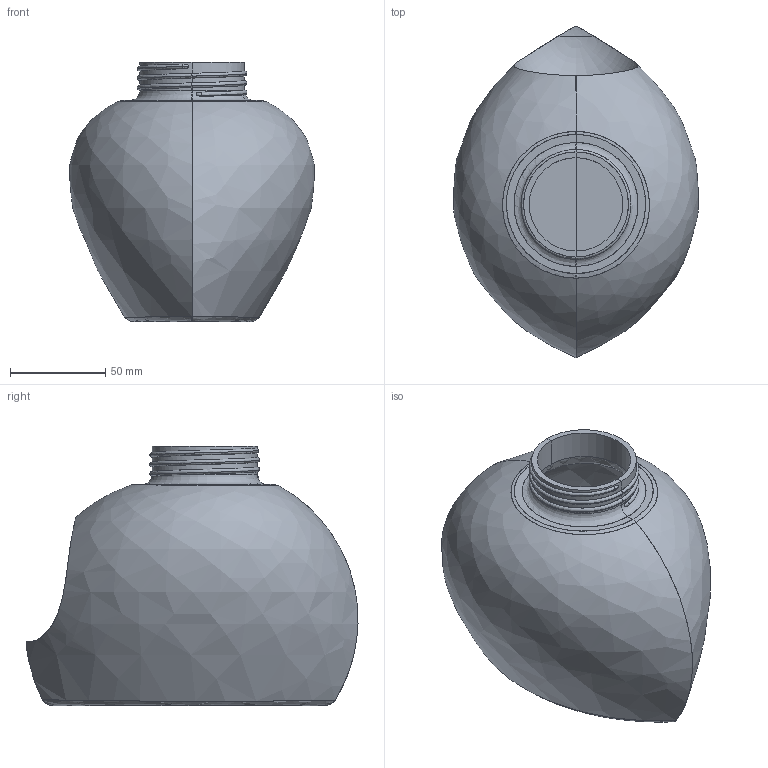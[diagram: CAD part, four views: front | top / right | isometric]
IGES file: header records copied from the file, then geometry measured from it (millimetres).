
Start section: START RECORD GO HERE.
Global section: file name: c1-Navarro_Pons_Oriol-solucion-posible.igs; native system: IBM CATIA IGES - CATIA Version 5 Release 19 ; preprocessor: CATIA Version 5 Release 19 ; author: andres.garcia; organization: IQS; date: 20200131.143934; units: millimetre
Bounding box: 128.56 x 174.13 x 136 mm (x, y, z)
Surface area: 129079.3 mm2 (no closed solid volume)
Topology: 0 solids, 0 shells, 54 faces, 252 edges, 248 vertices
Faces by surface type: bspline 32, revolution 16, plane 6
